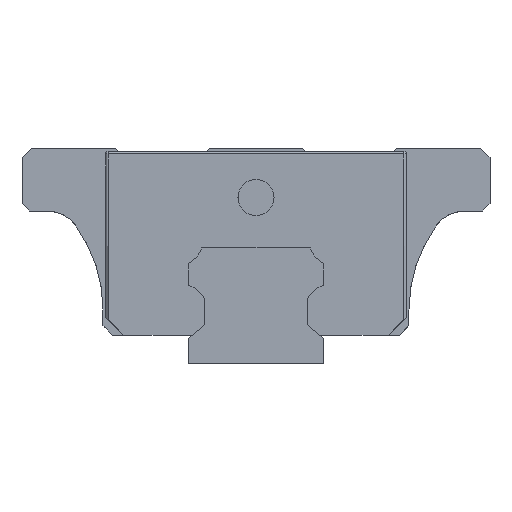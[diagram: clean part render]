
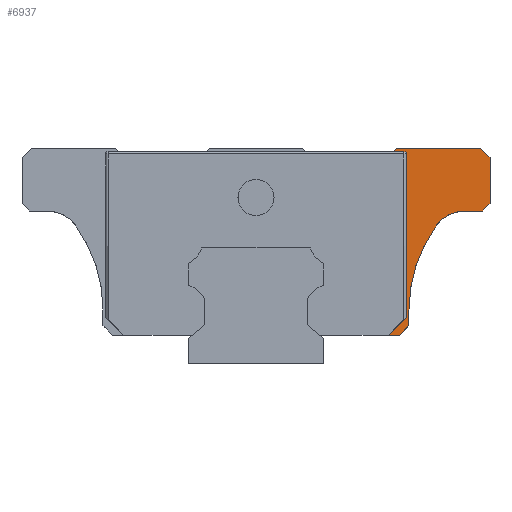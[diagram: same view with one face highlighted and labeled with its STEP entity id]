
A CAD part, left-side view. The second image highlights one B-rep face of the part: STEP entity #6937.
In plain terms, the highlighted planar face has unit normal (-1, 0, 0).
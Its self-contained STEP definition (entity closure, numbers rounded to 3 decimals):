
#27 = CARTESIAN_POINT ( 'NONE',  ( -11.45, -6.587, 3.2 ) ) ;
#94 = EDGE_CURVE ( 'NONE', #4608, #6692, #538, .T. ) ;
#124 = CARTESIAN_POINT ( 'NONE',  ( -11.45, -16.702, 5.2 ) ) ;
#280 = CARTESIAN_POINT ( 'NONE',  ( -11.45, -15.26, 23.595 ) ) ;
#367 = EDGE_CURVE ( 'NONE', #648, #1224, #4749, .T. ) ;
#384 = LINE ( 'NONE', #970, #2952 ) ;
#419 = ORIENTED_EDGE ( 'NONE', *, *, #1582, .F. ) ;
#470 = VECTOR ( 'NONE', #1673, 1000. ) ;
#526 = ORIENTED_EDGE ( 'NONE', *, *, #4611, .T. ) ;
#527 = CARTESIAN_POINT ( 'NONE',  ( -11.45, -18.027, 23.595 ) ) ;
#538 = CIRCLE ( 'NONE', #4679, 0.26 ) ;
#648 = VERTEX_POINT ( 'NONE', #5142 ) ;
#712 = CARTESIAN_POINT ( 'NONE',  ( -11.45, -8.424, 3.2 ) ) ;
#862 = EDGE_CURVE ( 'NONE', #6134, #4087, #1067, .T. ) ;
#970 = CARTESIAN_POINT ( 'NONE',  ( -11.45, -26., 24. ) ) ;
#1067 = LINE ( 'NONE', #4995, #2086 ) ;
#1114 = LINE ( 'NONE', #2134, #4610 ) ;
#1224 = VERTEX_POINT ( 'NONE', #280 ) ;
#1425 = DIRECTION ( 'NONE',  ( 0., 0., 1. ) ) ;
#1448 = ORIENTED_EDGE ( 'NONE', *, *, #2668, .T. ) ;
#1482 = VECTOR ( 'NONE', #3571, 1000. ) ;
#1582 = EDGE_CURVE ( 'NONE', #4608, #1224, #6744, .T. ) ;
#1673 = DIRECTION ( 'NONE',  ( 0., 1., 0. ) ) ;
#1677 = ORIENTED_EDGE ( 'NONE', *, *, #862, .T. ) ;
#1701 = ORIENTED_EDGE ( 'NONE', *, *, #4569, .T. ) ;
#1707 = LINE ( 'NONE', #712, #2947 ) ;
#1753 = DIRECTION ( 'NONE',  ( 0., 0., 1. ) ) ;
#1789 = EDGE_CURVE ( 'NONE', #2502, #6692, #1815, .T. ) ;
#1815 = LINE ( 'NONE', #124, #4360 ) ;
#1836 = CIRCLE ( 'NONE', #6915, 4. ) ;
#2017 = CIRCLE ( 'NONE', #7082, 16. ) ;
#2041 = CARTESIAN_POINT ( 'NONE',  ( -11.45, -15.6, 24. ) ) ;
#2086 = VECTOR ( 'NONE', #2703, 1000. ) ;
#2110 = LINE ( 'NONE', #2222, #5192 ) ;
#2134 = CARTESIAN_POINT ( 'NONE',  ( -11.45, -14.696, 3.2 ) ) ;
#2222 = CARTESIAN_POINT ( 'NONE',  ( -11.45, -25.2, 17. ) ) ;
#2267 = CARTESIAN_POINT ( 'NONE',  ( -11.45, -16.442, 23.595 ) ) ;
#2298 = ORIENTED_EDGE ( 'NONE', *, *, #2747, .T. ) ;
#2313 = DIRECTION ( 'NONE',  ( 0., 0., 1. ) ) ;
#2350 = VECTOR ( 'NONE', #1425, 1000. ) ;
#2354 = EDGE_CURVE ( 'NONE', #4087, #4744, #6652, .T. ) ;
#2428 = ORIENTED_EDGE ( 'NONE', *, *, #4882, .T. ) ;
#2502 = VERTEX_POINT ( 'NONE', #6315 ) ;
#2578 = VERTEX_POINT ( 'NONE', #4535 ) ;
#2622 = DIRECTION ( 'NONE',  ( 0., 0., 1. ) ) ;
#2629 = ORIENTED_EDGE ( 'NONE', *, *, #94, .T. ) ;
#2666 = CARTESIAN_POINT ( 'NONE',  ( -11.45, -17., 6. ) ) ;
#2668 = EDGE_CURVE ( 'NONE', #4744, #5600, #2985, .T. ) ;
#2677 = CARTESIAN_POINT ( 'NONE',  ( -11.45, -17., 4.25 ) ) ;
#2703 = DIRECTION ( 'NONE',  ( 0., -0.707, 0.707 ) ) ;
#2747 = EDGE_CURVE ( 'NONE', #5696, #6038, #4762, .T. ) ;
#2947 = VECTOR ( 'NONE', #4004, 1000. ) ;
#2952 = VECTOR ( 'NONE', #7221, 1000. ) ;
#2985 = LINE ( 'NONE', #5908, #6367 ) ;
#3177 = CARTESIAN_POINT ( 'NONE',  ( -11.45, -26., 22.95 ) ) ;
#3296 = DIRECTION ( 'NONE',  ( 1., 0., 0. ) ) ;
#3407 = VECTOR ( 'NONE', #2622, 1000. ) ;
#3460 = DIRECTION ( 'NONE',  ( 1., 0., 0. ) ) ;
#3562 = VERTEX_POINT ( 'NONE', #4949 ) ;
#3571 = DIRECTION ( 'NONE',  ( 0., 0.643, -0.766 ) ) ;
#3581 = DIRECTION ( 'NONE',  ( 0., 0.707, 0.707 ) ) ;
#3697 = EDGE_CURVE ( 'NONE', #5600, #648, #384, .T. ) ;
#3776 = CARTESIAN_POINT ( 'NONE',  ( -11.45, -23.253, 13. ) ) ;
#3833 = CARTESIAN_POINT ( 'NONE',  ( -11.45, -16.702, 23.335 ) ) ;
#4004 = DIRECTION ( 'NONE',  ( 0., -1., 0. ) ) ;
#4084 = EDGE_CURVE ( 'NONE', #3562, #2502, #1114, .T. ) ;
#4087 = VERTEX_POINT ( 'NONE', #4379 ) ;
#4183 = CARTESIAN_POINT ( 'NONE',  ( -11.45, -24.95, 24. ) ) ;
#4263 = EDGE_LOOP ( 'NONE', ( #1677, #6184, #1448, #4702, #5940, #419, #2629, #5675, #4639, #1701, #5775, #2298, #526, #5217, #2428 ) ) ;
#4360 = VECTOR ( 'NONE', #5668, 1000. ) ;
#4379 = CARTESIAN_POINT ( 'NONE',  ( -11.45, -26., 17.8 ) ) ;
#4399 = CARTESIAN_POINT ( 'NONE',  ( -11.45, -25.2, 17. ) ) ;
#4446 = VECTOR ( 'NONE', #5467, 1000. ) ;
#4535 = CARTESIAN_POINT ( 'NONE',  ( -11.45, -23.253, 17. ) ) ;
#4569 = EDGE_CURVE ( 'NONE', #3562, #5064, #1707, .T. ) ;
#4608 = VERTEX_POINT ( 'NONE', #2267 ) ;
#4610 = VECTOR ( 'NONE', #7254, 1000. ) ;
#4611 = EDGE_CURVE ( 'NONE', #6038, #5333, #2017, .T. ) ;
#4639 = ORIENTED_EDGE ( 'NONE', *, *, #4084, .F. ) ;
#4679 = AXIS2_PLACEMENT_3D ( 'NONE', #6858, #7194, #1753 ) ;
#4702 = ORIENTED_EDGE ( 'NONE', *, *, #3697, .T. ) ;
#4744 = VERTEX_POINT ( 'NONE', #3177 ) ;
#4749 = LINE ( 'NONE', #2041, #1482 ) ;
#4762 = LINE ( 'NONE', #7000, #2350 ) ;
#4882 = EDGE_CURVE ( 'NONE', #2578, #6134, #2110, .T. ) ;
#4886 = DIRECTION ( 'NONE',  ( 0., -1., 0. ) ) ;
#4949 = CARTESIAN_POINT ( 'NONE',  ( -11.45, -14.696, 3.2 ) ) ;
#4995 = CARTESIAN_POINT ( 'NONE',  ( -11.45, -26., 17.8 ) ) ;
#5064 = VERTEX_POINT ( 'NONE', #5215 ) ;
#5091 = PLANE ( 'NONE',  #6108 ) ;
#5142 = CARTESIAN_POINT ( 'NONE',  ( -11.45, -15.6, 24. ) ) ;
#5145 = DIRECTION ( 'NONE',  ( 0., 0., 1. ) ) ;
#5192 = VECTOR ( 'NONE', #4886, 1000. ) ;
#5215 = CARTESIAN_POINT ( 'NONE',  ( -11.45, -15.95, 3.2 ) ) ;
#5217 = ORIENTED_EDGE ( 'NONE', *, *, #6114, .T. ) ;
#5254 = DIRECTION ( 'NONE',  ( -1., 0., 0. ) ) ;
#5333 = VERTEX_POINT ( 'NONE', #6085 ) ;
#5467 = DIRECTION ( 'NONE',  ( 0., -0.707, 0.707 ) ) ;
#5543 = LINE ( 'NONE', #6620, #4446 ) ;
#5600 = VERTEX_POINT ( 'NONE', #4183 ) ;
#5619 = DIRECTION ( 'NONE',  ( 0., 0., 1. ) ) ;
#5668 = DIRECTION ( 'NONE',  ( 0., 0., 1. ) ) ;
#5675 = ORIENTED_EDGE ( 'NONE', *, *, #1789, .F. ) ;
#5696 = VERTEX_POINT ( 'NONE', #2677 ) ;
#5775 = ORIENTED_EDGE ( 'NONE', *, *, #6433, .T. ) ;
#5908 = CARTESIAN_POINT ( 'NONE',  ( -11.45, -24.95, 24. ) ) ;
#5940 = ORIENTED_EDGE ( 'NONE', *, *, #367, .T. ) ;
#6038 = VERTEX_POINT ( 'NONE', #2666 ) ;
#6085 = CARTESIAN_POINT ( 'NONE',  ( -11.45, -20.004, 15.333 ) ) ;
#6108 = AXIS2_PLACEMENT_3D ( 'NONE', #27, #5254, #2313 ) ;
#6114 = EDGE_CURVE ( 'NONE', #5333, #2578, #1836, .T. ) ;
#6134 = VERTEX_POINT ( 'NONE', #4399 ) ;
#6167 = FACE_OUTER_BOUND ( 'NONE', #4263, .T. ) ;
#6184 = ORIENTED_EDGE ( 'NONE', *, *, #2354, .T. ) ;
#6260 = CARTESIAN_POINT ( 'NONE',  ( -11.45, -33., 6. ) ) ;
#6315 = CARTESIAN_POINT ( 'NONE',  ( -11.45, -16.702, 5.206 ) ) ;
#6367 = VECTOR ( 'NONE', #3581, 1000. ) ;
#6433 = EDGE_CURVE ( 'NONE', #5064, #5696, #5543, .T. ) ;
#6620 = CARTESIAN_POINT ( 'NONE',  ( -11.45, -17., 4.25 ) ) ;
#6652 = LINE ( 'NONE', #7198, #3407 ) ;
#6692 = VERTEX_POINT ( 'NONE', #3833 ) ;
#6744 = LINE ( 'NONE', #527, #470 ) ;
#6858 = CARTESIAN_POINT ( 'NONE',  ( -11.45, -16.442, 23.335 ) ) ;
#6915 = AXIS2_PLACEMENT_3D ( 'NONE', #3776, #3296, #5619 ) ;
#6937 = ADVANCED_FACE ( 'NONE', ( #6167 ), #5091, .T. ) ;
#7000 = CARTESIAN_POINT ( 'NONE',  ( -11.45, -17., 6. ) ) ;
#7082 = AXIS2_PLACEMENT_3D ( 'NONE', #6260, #3460, #5145 ) ;
#7194 = DIRECTION ( 'NONE',  ( 1., 0., 0. ) ) ;
#7198 = CARTESIAN_POINT ( 'NONE',  ( -11.45, -26., 17. ) ) ;
#7221 = DIRECTION ( 'NONE',  ( 0., 1., 0. ) ) ;
#7254 = DIRECTION ( 'NONE',  ( 0., -0.707, 0.707 ) ) ;
